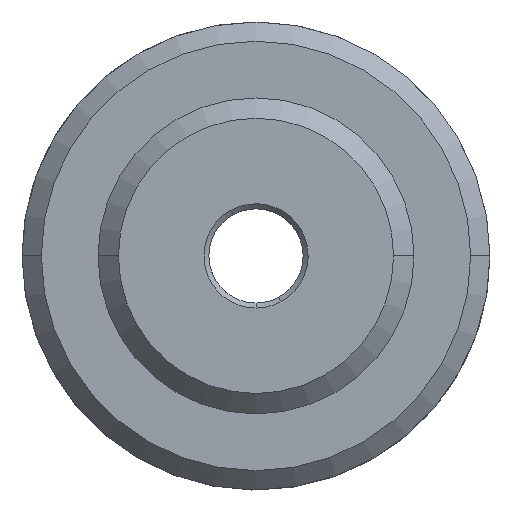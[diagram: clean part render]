
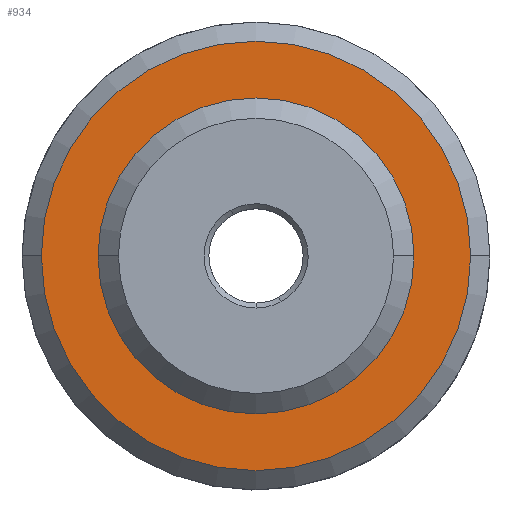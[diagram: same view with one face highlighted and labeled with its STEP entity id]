
A CAD part, top view. The second image highlights one B-rep face of the part: STEP entity #934.
In plain terms, the highlighted planar face has unit normal (0, 0, 1).
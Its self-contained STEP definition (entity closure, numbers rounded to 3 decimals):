
#23 = ORIENTED_EDGE ( 'NONE', *, *, #1264, .F. ) ;
#119 = DIRECTION ( 'NONE',  ( -1., 0., 0. ) ) ;
#135 = VERTEX_POINT ( 'NONE', #449 ) ;
#167 = CARTESIAN_POINT ( 'NONE',  ( 0., 0., 6.15 ) ) ;
#258 = CIRCLE ( 'NONE', #1390, 19.5 ) ;
#281 = AXIS2_PLACEMENT_3D ( 'NONE', #447, #1308, #869 ) ;
#317 = CARTESIAN_POINT ( 'NONE',  ( 0., 0., 6.15 ) ) ;
#327 = CIRCLE ( 'NONE', #445, 14.35 ) ;
#335 = EDGE_CURVE ( 'NONE', #998, #135, #258, .T. ) ;
#440 = CARTESIAN_POINT ( 'NONE',  ( 14.35, 0., 6.15 ) ) ;
#445 = AXIS2_PLACEMENT_3D ( 'NONE', #543, #1398, #665 ) ;
#447 = CARTESIAN_POINT ( 'NONE',  ( 0., -14.35, 6.15 ) ) ;
#449 = CARTESIAN_POINT ( 'NONE',  ( 19.5, 0., 6.15 ) ) ;
#451 = ORIENTED_EDGE ( 'NONE', *, *, #583, .F. ) ;
#475 = EDGE_CURVE ( 'NONE', #1127, #549, #327, .T. ) ;
#514 = ORIENTED_EDGE ( 'NONE', *, *, #475, .F. ) ;
#543 = CARTESIAN_POINT ( 'NONE',  ( 0., 0., 6.15 ) ) ;
#549 = VERTEX_POINT ( 'NONE', #440 ) ;
#583 = EDGE_CURVE ( 'NONE', #135, #998, #1098, .T. ) ;
#665 = DIRECTION ( 'NONE',  ( -1., 0., 0. ) ) ;
#684 = CARTESIAN_POINT ( 'NONE',  ( 0., 0., 6.15 ) ) ;
#707 = DIRECTION ( 'NONE',  ( 0., 0., -1. ) ) ;
#714 = AXIS2_PLACEMENT_3D ( 'NONE', #167, #707, #1139 ) ;
#727 = ORIENTED_EDGE ( 'NONE', *, *, #335, .F. ) ;
#732 = CIRCLE ( 'NONE', #977, 14.35 ) ;
#746 = EDGE_LOOP ( 'NONE', ( #514, #23 ) ) ;
#761 = PLANE ( 'NONE',  #281 ) ;
#774 = FACE_BOUND ( 'NONE', #746, .T. ) ;
#860 = EDGE_LOOP ( 'NONE', ( #727, #451 ) ) ;
#869 = DIRECTION ( 'NONE',  ( 1., 0., 0. ) ) ;
#934 = ADVANCED_FACE ( 'NONE', ( #1179, #774 ), #761, .T. ) ;
#977 = AXIS2_PLACEMENT_3D ( 'NONE', #684, #1001, #119 ) ;
#981 = CARTESIAN_POINT ( 'NONE',  ( -19.5, 0., 6.15 ) ) ;
#998 = VERTEX_POINT ( 'NONE', #981 ) ;
#1001 = DIRECTION ( 'NONE',  ( 0., 0., 1. ) ) ;
#1050 = DIRECTION ( 'NONE',  ( 0., 0., -1. ) ) ;
#1098 = CIRCLE ( 'NONE', #714, 19.5 ) ;
#1127 = VERTEX_POINT ( 'NONE', #1355 ) ;
#1139 = DIRECTION ( 'NONE',  ( -1., 0., 0. ) ) ;
#1179 = FACE_OUTER_BOUND ( 'NONE', #860, .T. ) ;
#1264 = EDGE_CURVE ( 'NONE', #549, #1127, #732, .T. ) ;
#1308 = DIRECTION ( 'NONE',  ( 0., 0., 1. ) ) ;
#1355 = CARTESIAN_POINT ( 'NONE',  ( -14.35, 0., 6.15 ) ) ;
#1365 = DIRECTION ( 'NONE',  ( -1., 0., 0. ) ) ;
#1390 = AXIS2_PLACEMENT_3D ( 'NONE', #317, #1050, #1365 ) ;
#1398 = DIRECTION ( 'NONE',  ( 0., 0., 1. ) ) ;
